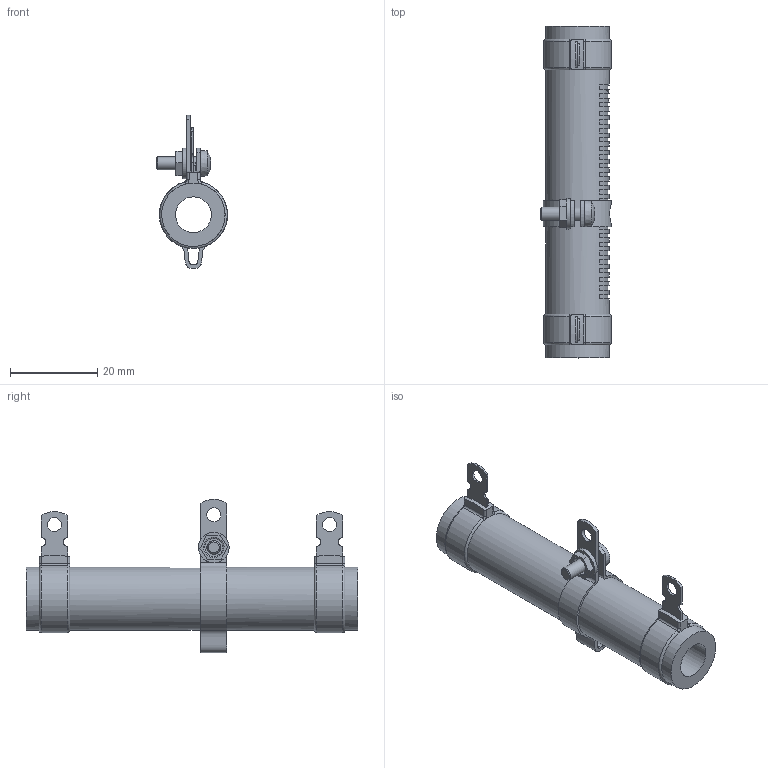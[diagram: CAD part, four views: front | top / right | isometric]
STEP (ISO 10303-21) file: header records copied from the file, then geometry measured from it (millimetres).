
FILE_DESCRIPTION(/* description */ (''),/* implementation_level */ '2;1');
FILE_NAME(/* name */ 'C:\_Vault\Dati\CATALOGO\RCA-RSA\R 25-1000\3D\RCAR 36.stp',/* time_stamp */ '2014-03-18T17:58:03+01:00',/* author */ ('stefano'),/* organization */ (''),/* preprocessor_version */ 'ST-DEVELOPER v15.2',/* originating_system */ 'Autodesk Inventor 2014',/* authorisation */ '');
FILE_SCHEMA (('AUTOMOTIVE_DESIGN { 1 0 10303 214 3 1 1 }'));
Length unit declared in the file: millimetre
Products named in the file (1): RCAR 36
Bounding box: 16.25 x 76 x 35.09 mm (x, y, z)
Volume: 9384.8 mm3; surface area: 6951.4 mm2
Topology: 1 solids, 1 shells, 271 faces, 678 edges, 439 vertices
Faces by surface type: plane 165, cylinder 70, cone 18, torus 13, bspline 4, sphere 1
Full cylindrical faces by diameter (mm): 2.75 x1, 3 x1, 3.2 x5, 4.134 x1, 7 x1, 8.2 x1, 14.5 x3
Entity records: 8523 total; most frequent: CARTESIAN_POINT 1704, DIRECTION 1395, ORIENTED_EDGE 1292, EDGE_CURVE 646, AXIS2_PLACEMENT_3D 522, VERTEX_POINT 429, LINE 351, VECTOR 351
